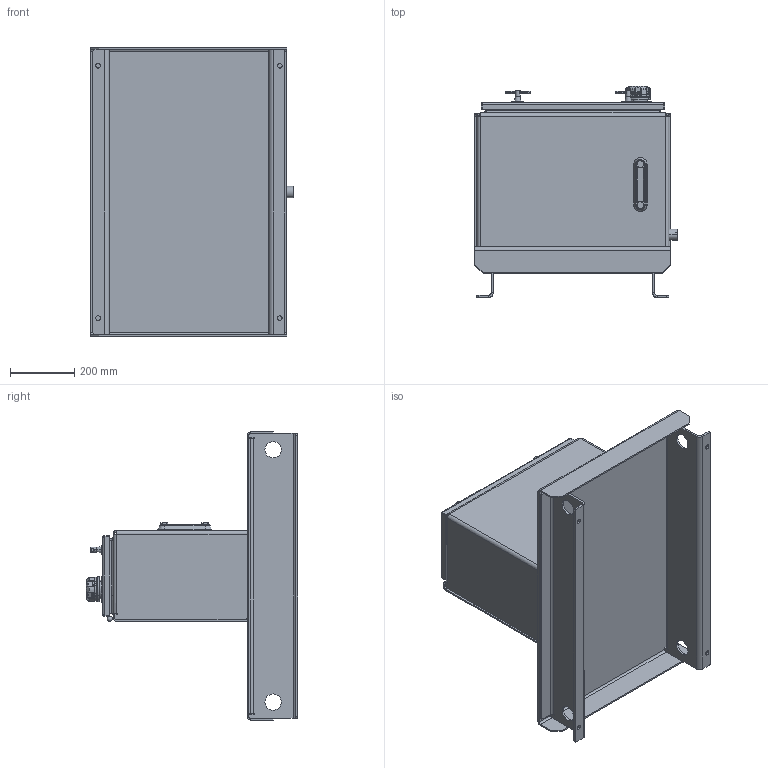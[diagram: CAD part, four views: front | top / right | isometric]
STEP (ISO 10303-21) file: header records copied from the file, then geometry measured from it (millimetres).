
FILE_DESCRIPTION (( 'STEP AP203' ), '1' );
FILE_NAME ('RTP010-HT.STEP', '2015-01-07T19:19:01', ( '' ), ( '' ), 'SwSTEP 2.0', 'SolidWorks 2014', '' );
FILE_SCHEMA (( 'CONFIG_CONTROL_DESIGN' ));
Products named in the file (1): RTP010-HT
Bounding box: 628.65 x 656.59 x 895.35 mm (x, y, z)
Volume: 10277383.9 mm3; surface area: 4510132.8 mm2
Topology: 40 solids, 218 shells, 2851 faces, 6298 edges, 3861 vertices
Faces by surface type: plane 1248, cylinder 1018, torus 299, bspline 144, cone 92, sphere 50
Entity records: 87155 total; most frequent: CARTESIAN_POINT 23962, DIRECTION 13798, ORIENTED_EDGE 12500, EDGE_CURVE 6250, AXIS2_PLACEMENT_3D 5309, VERTEX_POINT 3849, VECTOR 3180, LINE 3180
